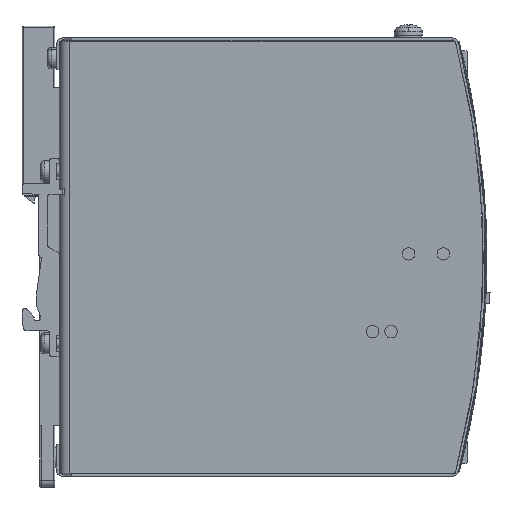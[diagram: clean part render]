
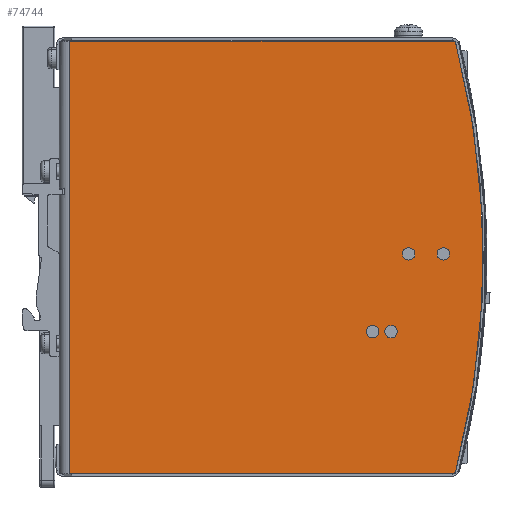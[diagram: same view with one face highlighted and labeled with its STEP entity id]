
A CAD part, left-side view. The second image highlights one B-rep face of the part: STEP entity #74744.
In plain terms, the highlighted planar face has unit normal (-1, 0, 0) as drawn and (1, 0, 0) by its records, which use the part's own axes.
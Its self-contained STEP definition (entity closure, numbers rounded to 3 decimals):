
#128 = CARTESIAN_POINT ( 'NONE',  ( 24., 0., 61.15 ) ) ;
#993 = CIRCLE ( 'NONE', #1052, 1.75 ) ;
#1052 = AXIS2_PLACEMENT_3D ( 'NONE', #34149, #53828, #60789 ) ;
#1322 = AXIS2_PLACEMENT_3D ( 'NONE', #30433, #22552, #50089 ) ;
#1550 = DIRECTION ( 'NONE',  ( 0., 0., -1. ) ) ;
#4829 = ORIENTED_EDGE ( 'NONE', *, *, #53494, .T. ) ;
#5395 = DIRECTION ( 'NONE',  ( 0., 0., -1. ) ) ;
#5833 = DIRECTION ( 'NONE',  ( 0., -1., 0. ) ) ;
#5947 = EDGE_LOOP ( 'NONE', ( #9137, #83002 ) ) ;
#6143 = EDGE_CURVE ( 'NONE', #39745, #52614, #44456, .T. ) ;
#6354 = EDGE_CURVE ( 'NONE', #18572, #36792, #52893, .T. ) ;
#7536 = DIRECTION ( 'NONE',  ( 0., 0., -1. ) ) ;
#7626 = VECTOR ( 'NONE', #26538, 1000. ) ;
#9137 = ORIENTED_EDGE ( 'NONE', *, *, #6354, .F. ) ;
#9293 = FACE_BOUND ( 'NONE', #77759, .T. ) ;
#12531 = DIRECTION ( 'NONE',  ( 0., 0., -1. ) ) ;
#12583 = CARTESIAN_POINT ( 'NONE',  ( 24., 88.7, -21. ) ) ;
#15582 = CARTESIAN_POINT ( 'NONE',  ( 24., 112.079, 61.15 ) ) ;
#15865 = DIRECTION ( 'NONE',  ( 0., -1., 0. ) ) ;
#15980 = ORIENTED_EDGE ( 'NONE', *, *, #36260, .F. ) ;
#16218 = EDGE_CURVE ( 'NONE', #81130, #36899, #993, .T. ) ;
#18572 = VERTEX_POINT ( 'NONE', #45924 ) ;
#18701 = ORIENTED_EDGE ( 'NONE', *, *, #63956, .F. ) ;
#19111 = CARTESIAN_POINT ( 'NONE',  ( 24., 93.9, -21. ) ) ;
#19288 = ORIENTED_EDGE ( 'NONE', *, *, #84627, .T. ) ;
#19967 = LINE ( 'NONE', #54469, #7626 ) ;
#20415 = CARTESIAN_POINT ( 'NONE',  ( 24., 98.9, 1. ) ) ;
#21093 = CARTESIAN_POINT ( 'NONE',  ( 24., 88.7, -19.25 ) ) ;
#21730 = CARTESIAN_POINT ( 'NONE',  ( 24., 108.7, 2.75 ) ) ;
#22016 = ORIENTED_EDGE ( 'NONE', *, *, #81520, .F. ) ;
#22537 = DIRECTION ( 'NONE',  ( 1., 0., 0. ) ) ;
#22552 = DIRECTION ( 'NONE',  ( 1., 0., 0. ) ) ;
#22873 = DIRECTION ( 'NONE',  ( 0., -1., 0. ) ) ;
#23622 = AXIS2_PLACEMENT_3D ( 'NONE', #40793, #48647, #7536 ) ;
#23750 = FACE_OUTER_BOUND ( 'NONE', #76937, .T. ) ;
#24240 = DIRECTION ( 'NONE',  ( 1., 0., 0. ) ) ;
#25364 = DIRECTION ( 'NONE',  ( 0., 0., -1. ) ) ;
#25538 = ORIENTED_EDGE ( 'NONE', *, *, #16218, .F. ) ;
#25905 = VECTOR ( 'NONE', #64842, 1000. ) ;
#26013 = VERTEX_POINT ( 'NONE', #42334 ) ;
#26538 = DIRECTION ( 'NONE',  ( 0., 1., 0. ) ) ;
#26783 = EDGE_LOOP ( 'NONE', ( #25538, #29906 ) ) ;
#27560 = VERTEX_POINT ( 'NONE', #21730 ) ;
#28136 = CARTESIAN_POINT ( 'NONE',  ( 24., 108.7, 1. ) ) ;
#28704 = CIRCLE ( 'NONE', #39880, 1.75 ) ;
#29559 = CIRCLE ( 'NONE', #72816, 1.75 ) ;
#29906 = ORIENTED_EDGE ( 'NONE', *, *, #39594, .F. ) ;
#30433 = CARTESIAN_POINT ( 'NONE',  ( 24., 108.7, 1. ) ) ;
#32800 = CARTESIAN_POINT ( 'NONE',  ( 24., 3., 61.15 ) ) ;
#33809 = DIRECTION ( 'NONE',  ( -1., 0., 0. ) ) ;
#33822 = CIRCLE ( 'NONE', #78517, 1.75 ) ;
#34149 = CARTESIAN_POINT ( 'NONE',  ( 24., 88.7, -21. ) ) ;
#35108 = DIRECTION ( 'NONE',  ( 0., 0., -1. ) ) ;
#36260 = EDGE_CURVE ( 'NONE', #62860, #39745, #39069, .T. ) ;
#36340 = EDGE_LOOP ( 'NONE', ( #22016, #48593 ) ) ;
#36618 = AXIS2_PLACEMENT_3D ( 'NONE', #19111, #45764, #12531 ) ;
#36792 = VERTEX_POINT ( 'NONE', #66576 ) ;
#36899 = VERTEX_POINT ( 'NONE', #21093 ) ;
#37026 = VERTEX_POINT ( 'NONE', #54955 ) ;
#37154 = CIRCLE ( 'NONE', #39924, 1.75 ) ;
#37278 = FACE_BOUND ( 'NONE', #36340, .T. ) ;
#39069 = LINE ( 'NONE', #128, #25905 ) ;
#39199 = ORIENTED_EDGE ( 'NONE', *, *, #6143, .F. ) ;
#39594 = EDGE_CURVE ( 'NONE', #36899, #81130, #37154, .T. ) ;
#39745 = VERTEX_POINT ( 'NONE', #15582 ) ;
#39880 = AXIS2_PLACEMENT_3D ( 'NONE', #20415, #22537, #1550 ) ;
#39924 = AXIS2_PLACEMENT_3D ( 'NONE', #12583, #66777, #65033 ) ;
#40793 = CARTESIAN_POINT ( 'NONE',  ( 24., 98.9, 1. ) ) ;
#41810 = CARTESIAN_POINT ( 'NONE',  ( 24., 108.7, -0.75 ) ) ;
#42334 = CARTESIAN_POINT ( 'NONE',  ( 24., 112.079, -61.15 ) ) ;
#42662 = EDGE_CURVE ( 'NONE', #52614, #26013, #71202, .T. ) ;
#43518 = CARTESIAN_POINT ( 'NONE',  ( 24., 3., 61.15 ) ) ;
#43839 = FACE_BOUND ( 'NONE', #5947, .T. ) ;
#44456 = CIRCLE ( 'NONE', #66798, 240. ) ;
#45764 = DIRECTION ( 'NONE',  ( 1., 0., 0. ) ) ;
#45924 = CARTESIAN_POINT ( 'NONE',  ( 24., 98.9, -0.75 ) ) ;
#48593 = ORIENTED_EDGE ( 'NONE', *, *, #64885, .F. ) ;
#48647 = DIRECTION ( 'NONE',  ( 1., 0., 0. ) ) ;
#50089 = DIRECTION ( 'NONE',  ( 0., 0., -1. ) ) ;
#52614 = VERTEX_POINT ( 'NONE', #76840 ) ;
#52893 = CIRCLE ( 'NONE', #23622, 1.75 ) ;
#53494 = EDGE_CURVE ( 'NONE', #60702, #26013, #19967, .T. ) ;
#53828 = DIRECTION ( 'NONE',  ( 1., 0., 0. ) ) ;
#54164 = EDGE_CURVE ( 'NONE', #36792, #18572, #28704, .T. ) ;
#54469 = CARTESIAN_POINT ( 'NONE',  ( 24., 0., -61.15 ) ) ;
#54955 = CARTESIAN_POINT ( 'NONE',  ( 24., 93.9, -22.75 ) ) ;
#56077 = FACE_BOUND ( 'NONE', #26783, .T. ) ;
#56151 = CIRCLE ( 'NONE', #36618, 1.75 ) ;
#56503 = CARTESIAN_POINT ( 'NONE',  ( 24., -120., 0. ) ) ;
#57182 = CARTESIAN_POINT ( 'NONE',  ( 24., 3., -61.15 ) ) ;
#57975 = CARTESIAN_POINT ( 'NONE',  ( 24., 88.7, -22.75 ) ) ;
#60702 = VERTEX_POINT ( 'NONE', #57182 ) ;
#60789 = DIRECTION ( 'NONE',  ( 0., 0., -1. ) ) ;
#61872 = ORIENTED_EDGE ( 'NONE', *, *, #64945, .F. ) ;
#62007 = VERTEX_POINT ( 'NONE', #78682 ) ;
#62811 = AXIS2_PLACEMENT_3D ( 'NONE', #56503, #75764, #15865 ) ;
#62860 = VERTEX_POINT ( 'NONE', #43518 ) ;
#63956 = EDGE_CURVE ( 'NONE', #27560, #69084, #80947, .T. ) ;
#64842 = DIRECTION ( 'NONE',  ( 0., 1., 0. ) ) ;
#64885 = EDGE_CURVE ( 'NONE', #62007, #37026, #56151, .T. ) ;
#64945 = EDGE_CURVE ( 'NONE', #69084, #27560, #33822, .T. ) ;
#65033 = DIRECTION ( 'NONE',  ( 0., 0., -1. ) ) ;
#66574 = AXIS2_PLACEMENT_3D ( 'NONE', #76209, #82799, #22873 ) ;
#66576 = CARTESIAN_POINT ( 'NONE',  ( 24., 98.9, 2.75 ) ) ;
#66777 = DIRECTION ( 'NONE',  ( 1., 0., 0. ) ) ;
#66798 = AXIS2_PLACEMENT_3D ( 'NONE', #71876, #33809, #5833 ) ;
#69084 = VERTEX_POINT ( 'NONE', #41810 ) ;
#71202 = CIRCLE ( 'NONE', #62811, 240. ) ;
#71876 = CARTESIAN_POINT ( 'NONE',  ( 24., -120., 0. ) ) ;
#72816 = AXIS2_PLACEMENT_3D ( 'NONE', #85449, #24240, #5395 ) ;
#74744 = ADVANCED_FACE ( 'NONE', ( #9293, #43839, #37278, #56077, #23750 ), #76648, .F. ) ;
#75339 = DIRECTION ( 'NONE',  ( 1., 0., 0. ) ) ;
#75536 = ORIENTED_EDGE ( 'NONE', *, *, #42662, .F. ) ;
#75764 = DIRECTION ( 'NONE',  ( -1., 0., 0. ) ) ;
#76209 = CARTESIAN_POINT ( 'NONE',  ( 24., 0., 61.15 ) ) ;
#76648 = PLANE ( 'NONE',  #66574 ) ;
#76840 = CARTESIAN_POINT ( 'NONE',  ( 24., 120., 0. ) ) ;
#76937 = EDGE_LOOP ( 'NONE', ( #4829, #75536, #39199, #15980, #19288 ) ) ;
#77759 = EDGE_LOOP ( 'NONE', ( #61872, #18701 ) ) ;
#78517 = AXIS2_PLACEMENT_3D ( 'NONE', #28136, #75339, #35108 ) ;
#78603 = VECTOR ( 'NONE', #25364, 1000. ) ;
#78682 = CARTESIAN_POINT ( 'NONE',  ( 24., 93.9, -19.25 ) ) ;
#80947 = CIRCLE ( 'NONE', #1322, 1.75 ) ;
#81130 = VERTEX_POINT ( 'NONE', #57975 ) ;
#81520 = EDGE_CURVE ( 'NONE', #37026, #62007, #29559, .T. ) ;
#82799 = DIRECTION ( 'NONE',  ( -1., 0., 0. ) ) ;
#83002 = ORIENTED_EDGE ( 'NONE', *, *, #54164, .F. ) ;
#84627 = EDGE_CURVE ( 'NONE', #62860, #60702, #85297, .T. ) ;
#85297 = LINE ( 'NONE', #32800, #78603 ) ;
#85449 = CARTESIAN_POINT ( 'NONE',  ( 24., 93.9, -21. ) ) ;
